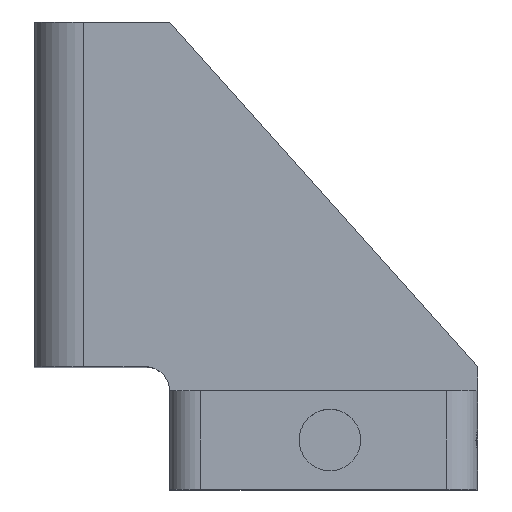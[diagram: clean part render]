
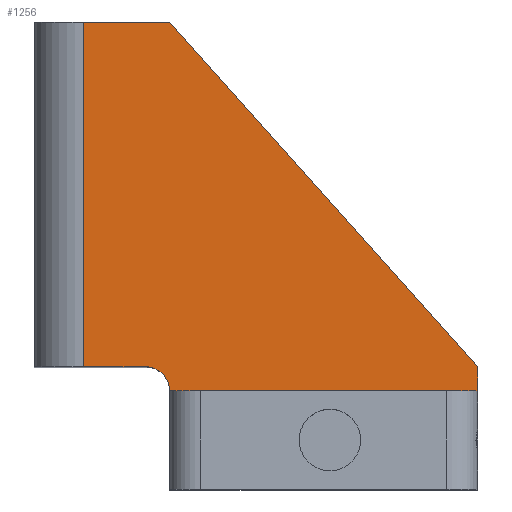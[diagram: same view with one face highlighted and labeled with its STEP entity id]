
A CAD part, top view. The second image highlights one B-rep face of the part: STEP entity #1256.
In plain terms, the highlighted planar face has unit normal (0, 0, 1).
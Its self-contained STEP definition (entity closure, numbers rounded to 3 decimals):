
#135 = CARTESIAN_POINT ( 'NONE',  ( -7., 38., 8. ) ) ;
#157 = VERTEX_POINT ( 'NONE', #1501 ) ;
#167 = DIRECTION ( 'NONE',  ( -1., 0., 0. ) ) ;
#221 = LINE ( 'NONE', #296, #1026 ) ;
#243 = DIRECTION ( 'NONE',  ( -1., 0., 0. ) ) ;
#279 = CARTESIAN_POINT ( 'NONE',  ( 18., 10., 8. ) ) ;
#296 = CARTESIAN_POINT ( 'NONE',  ( 18., 38., 8. ) ) ;
#401 = LINE ( 'NONE', #2497, #2190 ) ;
#515 = FACE_OUTER_BOUND ( 'NONE', #960, .T. ) ;
#530 = CARTESIAN_POINT ( 'NONE',  ( -14., 10., 8. ) ) ;
#583 = CARTESIAN_POINT ( 'NONE',  ( -7., 38., 8. ) ) ;
#608 = LINE ( 'NONE', #887, #1152 ) ;
#686 = ORIENTED_EDGE ( 'NONE', *, *, #2260, .F. ) ;
#691 = CARTESIAN_POINT ( 'NONE',  ( 18., 8., 8. ) ) ;
#704 = AXIS2_PLACEMENT_3D ( 'NONE', #1083, #1120, #1058 ) ;
#727 = LINE ( 'NONE', #1546, #2004 ) ;
#787 = CARTESIAN_POINT ( 'NONE',  ( 18., 8., 8. ) ) ;
#819 = DIRECTION ( 'NONE',  ( 0., -1., 0. ) ) ;
#858 = VERTEX_POINT ( 'NONE', #1717 ) ;
#887 = CARTESIAN_POINT ( 'NONE',  ( -18., 10., 8. ) ) ;
#960 = EDGE_LOOP ( 'NONE', ( #1129, #2092, #1902, #2571, #1165, #686, #1266 ) ) ;
#970 = AXIS2_PLACEMENT_3D ( 'NONE', #787, #2283, #1421 ) ;
#973 = PLANE ( 'NONE',  #970 ) ;
#974 = VERTEX_POINT ( 'NONE', #691 ) ;
#1002 = DIRECTION ( 'NONE',  ( -1., 0., 0. ) ) ;
#1026 = VECTOR ( 'NONE', #167, 1000. ) ;
#1036 = LINE ( 'NONE', #2547, #1159 ) ;
#1058 = DIRECTION ( 'NONE',  ( -1., 0., 0. ) ) ;
#1083 = CARTESIAN_POINT ( 'NONE',  ( -9., 8., 8. ) ) ;
#1120 = DIRECTION ( 'NONE',  ( 0., 0., -1. ) ) ;
#1121 = EDGE_CURVE ( 'NONE', #2567, #1458, #401, .T. ) ;
#1129 = ORIENTED_EDGE ( 'NONE', *, *, #1363, .T. ) ;
#1152 = VECTOR ( 'NONE', #1002, 1000. ) ;
#1159 = VECTOR ( 'NONE', #243, 1000. ) ;
#1165 = ORIENTED_EDGE ( 'NONE', *, *, #2062, .F. ) ;
#1256 = ADVANCED_FACE ( 'NONE', ( #515 ), #973, .F. ) ;
#1266 = ORIENTED_EDGE ( 'NONE', *, *, #1977, .F. ) ;
#1359 = CIRCLE ( 'NONE', #704, 2. ) ;
#1363 = EDGE_CURVE ( 'NONE', #1487, #2567, #221, .T. ) ;
#1421 = DIRECTION ( 'NONE',  ( -1., 0., 0. ) ) ;
#1458 = VERTEX_POINT ( 'NONE', #530 ) ;
#1487 = VERTEX_POINT ( 'NONE', #135 ) ;
#1498 = EDGE_CURVE ( 'NONE', #858, #157, #1359, .T. ) ;
#1501 = CARTESIAN_POINT ( 'NONE',  ( -7., 8., 8. ) ) ;
#1546 = CARTESIAN_POINT ( 'NONE',  ( 18., 8., 8. ) ) ;
#1701 = VERTEX_POINT ( 'NONE', #279 ) ;
#1717 = CARTESIAN_POINT ( 'NONE',  ( -9., 10., 8. ) ) ;
#1788 = DIRECTION ( 'NONE',  ( 0.666, -0.746, 0. ) ) ;
#1817 = LINE ( 'NONE', #583, #2294 ) ;
#1900 = EDGE_CURVE ( 'NONE', #858, #1458, #608, .T. ) ;
#1902 = ORIENTED_EDGE ( 'NONE', *, *, #1900, .F. ) ;
#1977 = EDGE_CURVE ( 'NONE', #1487, #1701, #1817, .T. ) ;
#2004 = VECTOR ( 'NONE', #819, 1000. ) ;
#2049 = DIRECTION ( 'NONE',  ( 0., -1., 0. ) ) ;
#2062 = EDGE_CURVE ( 'NONE', #974, #157, #1036, .T. ) ;
#2092 = ORIENTED_EDGE ( 'NONE', *, *, #1121, .T. ) ;
#2190 = VECTOR ( 'NONE', #2049, 1000. ) ;
#2260 = EDGE_CURVE ( 'NONE', #1701, #974, #727, .T. ) ;
#2278 = CARTESIAN_POINT ( 'NONE',  ( -14., 38., 8. ) ) ;
#2283 = DIRECTION ( 'NONE',  ( 0., 0., -1. ) ) ;
#2294 = VECTOR ( 'NONE', #1788, 1000. ) ;
#2497 = CARTESIAN_POINT ( 'NONE',  ( -14., 10., 8. ) ) ;
#2547 = CARTESIAN_POINT ( 'NONE',  ( 18., 8., 8. ) ) ;
#2567 = VERTEX_POINT ( 'NONE', #2278 ) ;
#2571 = ORIENTED_EDGE ( 'NONE', *, *, #1498, .T. ) ;
